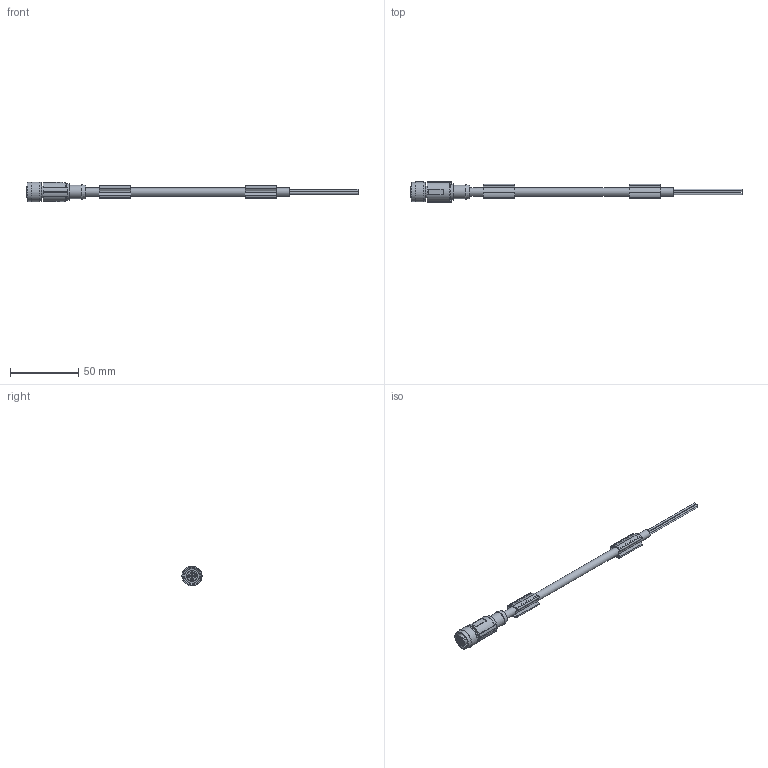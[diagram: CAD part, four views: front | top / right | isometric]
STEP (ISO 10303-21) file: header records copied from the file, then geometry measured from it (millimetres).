
FILE_DESCRIPTION(/* description */ (''),/* implementation_level */ '2;1');
FILE_NAME(/* name */ 'C:\#Vault-WorkDir\Konstruktions-Dokumente\Projekte\Zubehör allgemein\153-13645_CI L5FGS-xM-PUR.stp',/* time_stamp */ '2019-11-06T12:03:57+01:00',/* author */ ('SensoPart'),/* organization */ ('SensoPart'),/* preprocessor_version */ 'ST-DEVELOPER v17',/* originating_system */ 'Autodesk Inventor 2018',/* authorisation */ '');
FILE_SCHEMA (('AUTOMOTIVE_DESIGN { 1 0 10303 214 3 1 1 }'));
Length unit declared in the file: millimetre
Products named in the file (1): GH-ENG-0030293
Bounding box: 244 x 15 x 14.69 mm (x, y, z)
Volume: 10756.5 mm3; surface area: 9673.1 mm2
Topology: 1 solids, 1 shells, 193 faces, 538 edges, 365 vertices
Faces by surface type: cylinder 93, plane 72, cone 24, torus 4
Full cylindrical faces by diameter (mm): 1.2 x5, 1.27 x5, 5.9 x1, 9.3 x1, 10 x1, 10.5 x1, 11 x1, 12 x1, 14 x2, 14.7 x1
Entity records: 8089 total; most frequent: CARTESIAN_POINT 2915, DIRECTION 1107, ORIENTED_EDGE 1076, EDGE_CURVE 538, AXIS2_PLACEMENT_3D 432, VERTEX_POINT 365, LINE 243, VECTOR 243
